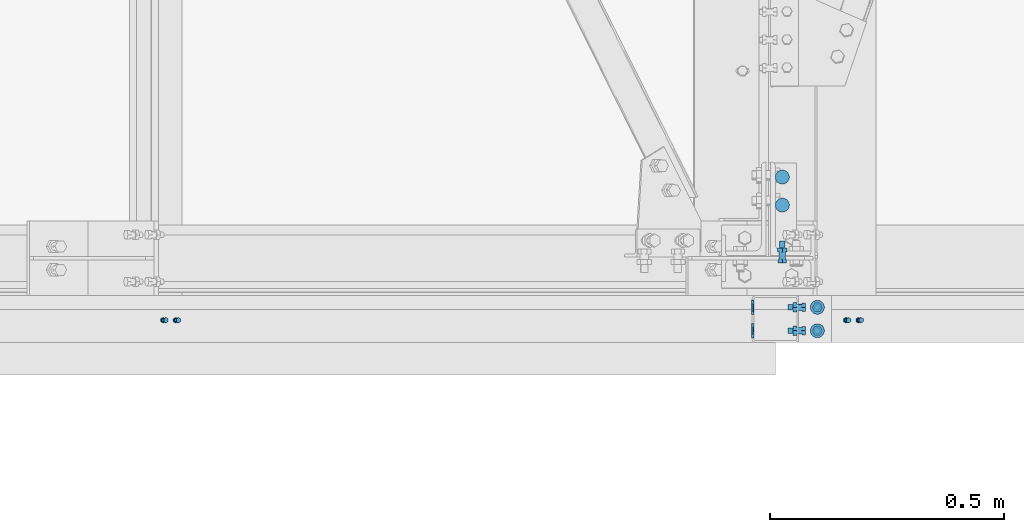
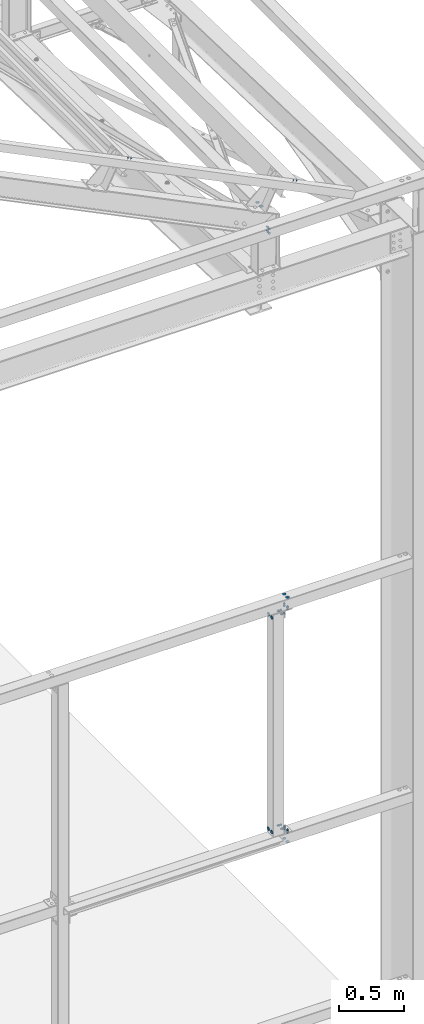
# One storey, part 314 of 362: 12 mechanical fasteners.
"""IFC2X3 building model written with IfcOpenShell, lengths in millimetres."""

from ifc_helpers import new_model, si_unit, frame, origin_with_axes, origin_2d_with_axis, place, context, subcontext, project, spatial, polyline, circle, outline, extrude, source, transform, mapped, material, type_object, element, save


model = new_model("IFC2X3")

# Units and contexts
model_context = context("Model", 3, precision=1e-05, world=origin_with_axes())
body_context = subcontext(model_context, "Body", "Model", "MODEL_VIEW")
ifc_project = project(units=[si_unit("LENGTHUNIT", "METRE", prefix="MILLI"), si_unit("AREAUNIT", "SQUARE_METRE"), si_unit("VOLUMEUNIT", "CUBIC_METRE"), si_unit("MASSUNIT", "GRAM", prefix="KILO"), si_unit("TIMEUNIT", "SECOND"), si_unit("PLANEANGLEUNIT", "RADIAN"), si_unit("SOLIDANGLEUNIT", "STERADIAN"), si_unit("THERMODYNAMICTEMPERATUREUNIT", "DEGREE_CELSIUS"), si_unit("LUMINOUSINTENSITYUNIT", "LUMEN")], contexts=[model_context])

# Site, building, storey
site_placement = place(None, origin_with_axes())
site = spatial("IfcSite", under=ifc_project, at=site_placement, Name="Undefined", CompositionType="ELEMENT")
building_placement = place(site_placement, origin_with_axes())
building = spatial("IfcBuilding", under=site, at=building_placement, Name="Undefined", CompositionType="ELEMENT")
storey_placement = place(building_placement, origin_with_axes())
storey = spatial("IfcBuildingStorey", under=building, at=storey_placement, Name="Undefined", CompositionType="ELEMENT", Elevation=0.0)

# Mechanical fasteners
ifc_material_1 = material(Name="6.8")
mechanical_fastener_type = type_object("IfcMechanicalFastenerType", Name="Bolt assembly")
shared_shape_1 = source(origin_with_axes(), body_context, "Body", "SweptSolid", [
    extrude(circle(Radius=15.0, at=origin_2d_with_axis()), frame((0.0, 0.0, 0.0), z_axis=(0.0, 1.0, 0.0), x_axis=(1.0, 0.0, 0.0)), (0.0, 0.0, 1.0), 4.1),
])
mechanical_fastener_1_placement = place(storey_placement, frame((38360.0, 173.499999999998, 8550.0), z_axis=(1.0, 0.0, 0.0), x_axis=(0.0, -1.0, 0.0)))
element("IfcMechanicalFastener", 1, at=mechanical_fastener_1_placement, inside=storey, type_object=mechanical_fastener_type, material=ifc_material_1, Name="Bolt assembly", NominalDiameter=30.0, NominalLength=4.0, context=body_context, shape_type="MappedRepresentation", body=[
    mapped(shared_shape_1, transform((0.0, 0.0, 0.0))),
    mapped(shared_shape_1, transform((60.0, 0.0, 0.0))),
])
shared_shape_2 = source(origin_with_axes(), body_context, "Body", "SweptSolid", [
    extrude(circle(Radius=15.0, at=origin_2d_with_axis()), frame((0.0, -3.99999923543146, 0.0), z_axis=(0.0, 1.0, 0.0), x_axis=(1.0, 0.0, 0.0)), (0.0, 0.0, 1.0), 4.1),
])
mechanical_fastener_2_placement = place(storey_placement, frame((38434.9947674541, -130.000008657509, 2760.0), z_axis=(0.0, -1.0, 0.0), x_axis=(-1.0, 0.0, 0.0)))
element("IfcMechanicalFastener", 2, at=mechanical_fastener_2_placement, inside=storey, type_object=mechanical_fastener_type, material=ifc_material_1, Name="Bolt assembly", NominalDiameter=30.0, NominalLength=4.0, context=body_context, shape_type="MappedRepresentation", body=[
    mapped(shared_shape_2, transform((0.0, 0.0, 25.0))),
    mapped(shared_shape_2, transform((0.0, 0.0, -25.0))),
])
mechanical_fastener_3_placement = place(storey_placement, frame((38434.994766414, -130.000008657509, 5040.0), z_axis=(0.0, 1.0, 0.0), x_axis=(-1.0, 0.0, 0.0)))
element("IfcMechanicalFastener", 3, at=mechanical_fastener_3_placement, inside=storey, type_object=mechanical_fastener_type, material=ifc_material_1, Name="Bolt assembly", NominalDiameter=30.0, NominalLength=4.0, context=body_context, shape_type="MappedRepresentation", body=[
    mapped(shared_shape_2, transform((0.0, 0.0, -25.0))),
    mapped(shared_shape_2, transform((0.0, 0.0, 25.0))),
])
ifc_material_2 = material(Name="8.8-SB-ZINGUE")
shared_shape_3 = source(origin_with_axes(), body_context, "Body", "SweptSolid", [
    extrude(circle(Radius=7.0, at=origin_2d_with_axis()), frame((0.0, -0.100011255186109, 0.0), z_axis=(0.0, 1.0, 0.0), x_axis=(1.0, 0.0, 0.0)), (0.0, 0.0, 1.0), 4.1),
    extrude(circle(Radius=7.0, at=origin_2d_with_axis()), frame((0.0, -6.9, 0.0), z_axis=(0.0, 1.0, 0.0), x_axis=(1.0, 0.0, 0.0)), (0.0, 0.0, 1.0), 7.0),
    extrude(outline(polyline([(10.39230484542, 0.0), (5.19615242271, 9.00000000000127), (-5.19615242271, 9.00000000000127), (-10.39230484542, 0.0), (-5.19615242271, -9.00000000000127), (5.19615242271, -9.00000000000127), (10.39230484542, 0.0)])), frame((0.0, -14.92, 0.0), z_axis=(0.0, 1.0, 0.0), x_axis=(1.0, 0.0, 0.0)), (0.0, 0.0, 1.0), 7.92),
    extrude(circle(Radius=6.0, at=origin_2d_with_axis()), frame((0.0, -7.0, 0.0), z_axis=(0.0, 1.0, 0.0), x_axis=(1.0, 0.0, 0.0)), (0.0, 0.0, 1.0), 30.0),
    extrude(outline(polyline([(11.5008173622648, 0.0), (5.7504086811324, 9.96000000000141), (-5.7504086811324, 9.96000000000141), (-11.5008173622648, 0.0), (-5.7504086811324, -9.96000000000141), (5.7504086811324, -9.96000000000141), (11.5008173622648, 0.0)])), frame((0.0, 4.00000005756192, 0.0), z_axis=(0.0, 1.0, 0.0), x_axis=(1.0, 0.0, 0.0)), (0.0, 0.0, 1.0), 7.92),
])
mechanical_fastener_4_placement = place(storey_placement, frame((38434.9947679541, -130.000007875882, 2860.0), z_axis=(0.0, -1.0, 0.0), x_axis=(-1.0, 0.0, 0.0)))
element("IfcMechanicalFastener", 4, at=mechanical_fastener_4_placement, inside=storey, type_object=mechanical_fastener_type, material=ifc_material_2, Name="Bolt assembly", NominalDiameter=12.0, NominalLength=30.0, context=body_context, shape_type="MappedRepresentation", body=[
    mapped(shared_shape_3, transform((0.0, 0.0, 25.0))),
    mapped(shared_shape_3, transform((0.0, 0.0, -25.0))),
])
mechanical_fastener_5_placement = place(storey_placement, frame((38434.994766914, -130.000007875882, 4940.0), z_axis=(0.0, 1.0, 0.0), x_axis=(-1.0, 0.0, 0.0)))
element("IfcMechanicalFastener", 5, at=mechanical_fastener_5_placement, inside=storey, type_object=mechanical_fastener_type, material=ifc_material_2, Name="Bolt assembly", NominalDiameter=12.0, NominalLength=30.0, context=body_context, shape_type="MappedRepresentation", body=[
    mapped(shared_shape_3, transform((0.0, 0.0, -25.0))),
    mapped(shared_shape_3, transform((0.0, 0.0, 25.0))),
])
shared_shape_4 = source(origin_with_axes(), body_context, "Body", "SweptSolid", [
    extrude(circle(Radius=4.0, at=origin_2d_with_axis()), frame((0.0, 0.0, 0.0), z_axis=(0.0, 1.0, 0.0), x_axis=(1.0, 0.0, 0.0)), (0.0, 0.0, 1.0), 7.1),
    extrude(outline(polyline([(5.7735026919, 0.0), (2.88675134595, 5.00000000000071), (-2.88675134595, 5.00000000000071), (-5.7735026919, 0.0), (-2.88675134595, -5.00000000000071), (2.88675134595, -5.00000000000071), (5.7735026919, 0.0)])), frame((0.0, -3.99999923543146, 0.0), z_axis=(0.0, 1.0, 0.0), x_axis=(1.0, 0.0, 0.0)), (0.0, 0.0, 1.0), 4.0),
    extrude(circle(Radius=3.0, at=origin_2d_with_axis()), frame((0.0, 0.0, 0.0), z_axis=(0.0, 1.0, 0.0), x_axis=(1.0, 0.0, 0.0)), (0.0, 0.0, 1.0), 16.0),
    extrude(outline(polyline([(5.7735026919, 0.0), (2.88675134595, 5.00000000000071), (-2.88675134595, 5.00000000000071), (-5.7735026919, 0.0), (-2.88675134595, -5.00000000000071), (2.88675134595, -5.00000000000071), (5.7735026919, 0.0)])), frame((0.0, 7.0, 0.0), z_axis=(0.0, 1.0, 0.0), x_axis=(1.0, 0.0, 0.0)), (0.0, 0.0, 1.0), 5.2),
])
mechanical_fastener_6_placement = place(storey_placement, frame((37054.129564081, -132.49992038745, 9601.99960368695), z_axis=(-0.897397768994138, 0.0, 0.441222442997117), x_axis=(0.0, 1.0, 0.0)))
element("IfcMechanicalFastener", 6, at=mechanical_fastener_6_placement, inside=storey, type_object=mechanical_fastener_type, material=ifc_material_1, Name="Bolt assembly", NominalDiameter=6.0, NominalLength=16.0, context=body_context, shape_type="MappedRepresentation", body=[
    mapped(shared_shape_4, transform((0.0, 0.0, -15.0))),
    mapped(shared_shape_4, transform((0.0, -3.63797880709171e-12, 15.0000000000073))),
])
shared_shape_5 = source(origin_with_axes(), body_context, "Body", "SweptSolid", [
    extrude(circle(Radius=4.0, at=origin_2d_with_axis()), frame((0.0, 0.000837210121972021, 0.0), z_axis=(0.0, 1.0, 0.0), x_axis=(1.0, 0.0, 0.0)), (0.0, 0.0, 1.0), 7.1),
    extrude(outline(polyline([(5.7735026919, 0.0), (2.88675134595, 5.00000000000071), (-2.88675134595, 5.00000000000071), (-5.7735026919, 0.0), (-2.88675134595, -5.00000000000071), (2.88675134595, -5.00000000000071), (5.7735026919, 0.0)])), frame((0.0, -3.99916278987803, 0.0), z_axis=(0.0, 1.0, 0.0), x_axis=(1.0, 0.0, 0.0)), (0.0, 0.0, 1.0), 4.0),
    extrude(circle(Radius=3.0, at=origin_2d_with_axis()), frame((0.0, 0.000837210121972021, 0.0), z_axis=(0.0, 1.0, 0.0), x_axis=(1.0, 0.0, 0.0)), (0.0, 0.0, 1.0), 16.0),
    extrude(outline(polyline([(5.7735026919, 0.0), (2.88675134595, 5.00000000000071), (-2.88675134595, 5.00000000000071), (-5.7735026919, 0.0), (-2.88675134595, -5.00000000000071), (2.88675134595, -5.00000000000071), (5.7735026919, 0.0)])), frame((0.0, 7.0008372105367, 0.0), z_axis=(0.0, 1.0, 0.0), x_axis=(1.0, 0.0, 0.0)), (0.0, 0.0, 1.0), 5.2),
])
mechanical_fastener_7_placement = place(storey_placement, frame((38513.731905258, -132.499920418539, 8884.36249499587), z_axis=(-0.897403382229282, 0.0, 0.441211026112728), x_axis=(0.0, 1.0, 0.0)))
element("IfcMechanicalFastener", 7, at=mechanical_fastener_7_placement, inside=storey, type_object=mechanical_fastener_type, material=ifc_material_1, Name="Bolt assembly", NominalDiameter=6.0, NominalLength=16.0, context=body_context, shape_type="MappedRepresentation", body=[
    mapped(shared_shape_5, transform((0.0, 0.0, -15.0))),
    mapped(shared_shape_5, transform((0.0, -3.63797880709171e-12, 15.0000000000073))),
])
shared_shape_6 = source(origin_with_axes(), body_context, "Body", "SweptSolid", [
    extrude(circle(Radius=7.0, at=origin_2d_with_axis()), frame((0.0, -2.70010483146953, 0.0), z_axis=(0.0, 1.0, 0.0), x_axis=(1.0, 0.0, 0.0)), (0.0, 0.0, 1.0), 5.6),
    extrude(circle(Radius=7.0, at=origin_2d_with_axis()), frame((0.0, 3.3998951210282, 0.0), z_axis=(0.0, 1.0, 0.0), x_axis=(1.0, 0.0, 0.0)), (0.0, 0.0, 1.0), 10.1),
    extrude(outline(polyline([(10.39230484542, 0.0), (5.19615242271, 9.00000000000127), (-5.19615242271, 9.00000000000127), (-10.39230484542, 0.0), (-5.19615242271, -9.00000000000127), (5.19615242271, -9.00000000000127), (10.39230484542, 0.0)])), frame((0.0, -10.7201048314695, 0.0), z_axis=(0.0, 1.0, 0.0), x_axis=(1.0, 0.0, 0.0)), (0.0, 0.0, 1.0), 7.92),
    extrude(circle(Radius=6.0, at=origin_2d_with_axis()), frame((0.0, -2.80010483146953, 0.0), z_axis=(0.0, 1.0, 0.0), x_axis=(1.0, 0.0, 0.0)), (0.0, 0.0, 1.0), 40.0),
    extrude(outline(polyline([(11.5008173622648, 0.0), (5.7504086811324, 9.96000000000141), (-5.7504086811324, 9.96000000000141), (-11.5008173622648, 0.0), (-5.7504086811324, -9.96000000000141), (5.7504086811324, -9.96000000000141), (11.5008173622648, 0.0)])), frame((0.0, 13.4998951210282, 0.0), z_axis=(0.0, 1.0, 0.0), x_axis=(1.0, 0.0, 0.0)), (0.0, 0.0, 1.0), 7.92),
])
mechanical_fastener_8_placement = place(storey_placement, frame((38360.0, 0.00010487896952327, 8370.0), z_axis=(-1.0, 0.0, 0.0), x_axis=(0.0, 0.0, 1.0)))
element("IfcMechanicalFastener", 8, at=mechanical_fastener_8_placement, inside=storey, type_object=mechanical_fastener_type, material=ifc_material_2, Name="Bolt assembly", NominalDiameter=12.0, NominalLength=40.0, context=body_context, shape_type="MappedRepresentation", body=[
    mapped(shared_shape_6, transform((0.0, 0.0, 0.0))),
    mapped(shared_shape_6, transform((40.0, 0.0, 0.0))),
])
shared_shape_7 = source(origin_with_axes(), body_context, "Body", "SweptSolid", [
    extrude(circle(Radius=15.0, at=origin_2d_with_axis()), frame((0.0, 0.00781569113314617, 0.0), z_axis=(0.0, 1.0, 0.0), x_axis=(1.0, 0.0, 0.0)), (0.0, 0.0, 1.0), 4.1),
])
mechanical_fastener_9_placement = place(storey_placement, frame((38294.9947679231, -130.000008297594, 2900.0), z_axis=(0.0, -1.0, 0.0), x_axis=(0.0, 0.0, -1.0)))
element("IfcMechanicalFastener", 9, at=mechanical_fastener_9_placement, inside=storey, type_object=mechanical_fastener_type, material=ifc_material_1, Name="Bolt assembly", NominalDiameter=30.0, NominalLength=4.0, context=body_context, shape_type="MappedRepresentation", body=[
    mapped(shared_shape_7, transform((0.0, 0.0, 25.0))),
    mapped(shared_shape_7, transform((0.0, 0.0, -25.0))),
])
mechanical_fastener_10_placement = place(storey_placement, frame((38294.994766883, -130.000008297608, 4900.0), z_axis=(0.0, 1.0, 0.0), x_axis=(0.0, 0.0, 1.0)))
element("IfcMechanicalFastener", 10, at=mechanical_fastener_10_placement, inside=storey, type_object=mechanical_fastener_type, material=ifc_material_1, Name="Bolt assembly", NominalDiameter=30.0, NominalLength=4.0, context=body_context, shape_type="MappedRepresentation", body=[
    mapped(shared_shape_7, transform((0.0, 0.0, -25.0))),
    mapped(shared_shape_7, transform((0.0, 0.0, 25.0))),
])
shared_shape_8 = source(origin_with_axes(), body_context, "Body", "SweptSolid", [
    extrude(circle(Radius=7.0, at=origin_2d_with_axis()), frame((0.0, -0.109490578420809, 0.0), z_axis=(0.0, 1.0, 0.0), x_axis=(1.0, 0.0, 0.0)), (0.0, 0.0, 1.0), 4.1),
    extrude(circle(Radius=7.0, at=origin_2d_with_axis()), frame((0.0, -6.90167467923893, 0.0), z_axis=(0.0, 1.0, 0.0), x_axis=(1.0, 0.0, 0.0)), (0.0, 0.0, 1.0), 7.0),
    extrude(outline(polyline([(10.39230484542, 0.0), (5.19615242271, 9.00000000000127), (-5.19615242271, 9.00000000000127), (-10.39230484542, 0.0), (-5.19615242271, -9.00000000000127), (5.19615242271, -9.00000000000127), (10.39230484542, 0.0)])), frame((0.0, -14.9216746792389, 0.0), z_axis=(0.0, 1.0, 0.0), x_axis=(1.0, 0.0, 0.0)), (0.0, 0.0, 1.0), 7.92),
    extrude(circle(Radius=6.0, at=origin_2d_with_axis()), frame((0.0, -7.00167467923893, 0.0), z_axis=(0.0, 1.0, 0.0), x_axis=(1.0, 0.0, 0.0)), (0.0, 0.0, 1.0), 30.0),
    extrude(outline(polyline([(11.5008173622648, 0.0), (5.7504086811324, 9.96000000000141), (-5.7504086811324, 9.96000000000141), (-11.5008173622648, 0.0), (-5.7504086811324, -9.96000000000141), (5.7504086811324, -9.96000000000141), (11.5008173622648, 0.0)])), frame((0.0, 3.99050942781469, 0.0), z_axis=(0.0, 1.0, 0.0), x_axis=(1.0, 0.0, 0.0)), (0.0, 0.0, 1.0), 7.92),
])
mechanical_fastener_11_placement = place(storey_placement, frame((38394.9930930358, -130.000006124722, 2900.00000004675), z_axis=(0.0, 1.0, 0.0), x_axis=(-5.58310001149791e-05, -3.00000033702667e-09, -0.99999999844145)))
element("IfcMechanicalFastener", 11, at=mechanical_fastener_11_placement, inside=storey, type_object=mechanical_fastener_type, material=ifc_material_2, Name="Bolt assembly", NominalDiameter=12.0, NominalLength=30.0, context=body_context, shape_type="MappedRepresentation", body=[
    mapped(shared_shape_8, transform((0.0, 0.0, 25.0))),
    mapped(shared_shape_8, transform((0.0, 0.0, -25.0))),
])
mechanical_fastener_12_placement = place(storey_placement, frame((38394.9930919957, -130.000006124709, 4899.99999995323), z_axis=(0.0, -1.0, 0.0), x_axis=(-5.58310001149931e-05, -3.00000033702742e-09, 0.99999999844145)))
element("IfcMechanicalFastener", 12, at=mechanical_fastener_12_placement, inside=storey, type_object=mechanical_fastener_type, material=ifc_material_2, Name="Bolt assembly", NominalDiameter=12.0, NominalLength=30.0, context=body_context, shape_type="MappedRepresentation", body=[
    mapped(shared_shape_8, transform((0.0, 0.0, -25.0))),
    mapped(shared_shape_8, transform((0.0, 0.0, 25.0))),
])

save(model, "model.ifc")
